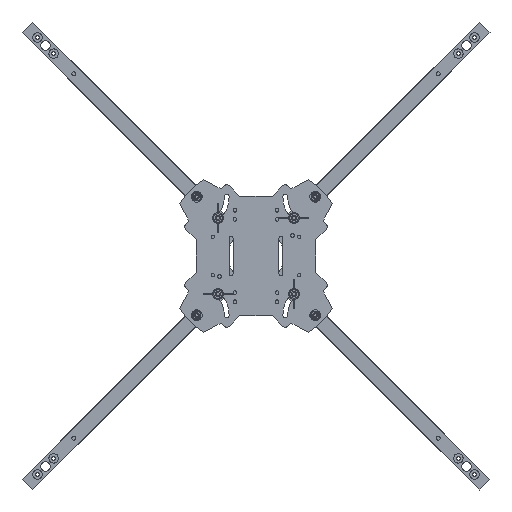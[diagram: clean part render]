
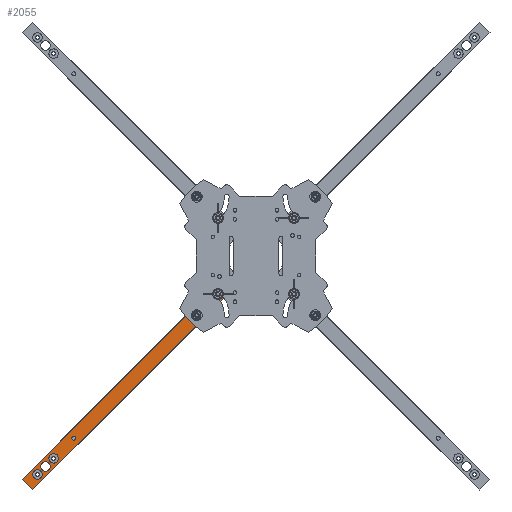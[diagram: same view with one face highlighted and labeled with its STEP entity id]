
A CAD part, front view. The second image highlights one B-rep face of the part: STEP entity #2055.
In plain terms, the highlighted planar face has unit normal (0, -1, 0).
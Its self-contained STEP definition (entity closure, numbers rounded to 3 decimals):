
#2055=ADVANCED_FACE('',(#3870,#3872,#3874,#3876,#3878,#3880,#3882),#3884,.T.);
#3870=FACE_BOUND('',#3871,.T.);
#3871=EDGE_LOOP('',(#5974,#5975));
#3872=FACE_BOUND('',#3873,.T.);
#3873=EDGE_LOOP('',(#5976,#5977));
#3874=FACE_BOUND('',#3875,.T.);
#3875=EDGE_LOOP('',(#5978,#5979));
#3876=FACE_BOUND('',#3877,.T.);
#3877=EDGE_LOOP('',(#5980,#5981));
#3878=FACE_BOUND('',#3879,.T.);
#3879=EDGE_LOOP('',(#5982,#5983));
#3880=FACE_BOUND('',#3881,.T.);
#3881=EDGE_LOOP('',(#5984,#5985));
#3882=FACE_OUTER_BOUND('',#3883,.T.);
#3883=EDGE_LOOP('',(#5986,#5987,#5988,#5989));
#3884=PLANE('',#3885);
#3885=AXIS2_PLACEMENT_3D('',#3886,#3887,#3888);
#3886=CARTESIAN_POINT('',(-6.,-6.,0.));
#3887=DIRECTION('',(0.,-1.,0.));
#3888=DIRECTION('',(1.,0.,0.));
#5974=ORIENTED_EDGE('',*,*,#7138,.T.);
#5975=ORIENTED_EDGE('',*,*,#7139,.T.);
#5976=ORIENTED_EDGE('',*,*,#7140,.T.);
#5977=ORIENTED_EDGE('',*,*,#7141,.T.);
#5978=ORIENTED_EDGE('',*,*,#7142,.T.);
#5979=ORIENTED_EDGE('',*,*,#7143,.T.);
#5980=ORIENTED_EDGE('',*,*,#7144,.T.);
#5981=ORIENTED_EDGE('',*,*,#7145,.T.);
#5982=ORIENTED_EDGE('',*,*,#7146,.T.);
#5983=ORIENTED_EDGE('',*,*,#7147,.T.);
#5984=ORIENTED_EDGE('',*,*,#7148,.T.);
#5985=ORIENTED_EDGE('',*,*,#7149,.T.);
#5986=ORIENTED_EDGE('',*,*,#7150,.T.);
#5987=ORIENTED_EDGE('',*,*,#7151,.T.);
#5988=ORIENTED_EDGE('',*,*,#7152,.F.);
#5989=ORIENTED_EDGE('',*,*,#7153,.F.);
#7138=EDGE_CURVE('',#8478,#8479,#8480,.F.);
#7139=EDGE_CURVE('',#8479,#8478,#8481,.F.);
#7140=EDGE_CURVE('',#8482,#8483,#8484,.T.);
#7141=EDGE_CURVE('',#8483,#8482,#8485,.T.);
#7142=EDGE_CURVE('',#8486,#8487,#8488,.T.);
#7143=EDGE_CURVE('',#8487,#8486,#8489,.T.);
#7144=EDGE_CURVE('',#8490,#8491,#8492,.T.);
#7145=EDGE_CURVE('',#8491,#8490,#8493,.T.);
#7146=EDGE_CURVE('',#8494,#8495,#8496,.F.);
#7147=EDGE_CURVE('',#8495,#8494,#8497,.F.);
#7148=EDGE_CURVE('',#8498,#8499,#8500,.F.);
#7149=EDGE_CURVE('',#8499,#8498,#8501,.F.);
#7150=EDGE_CURVE('',#8502,#8503,#8504,.T.);
#7151=EDGE_CURVE('',#8503,#8505,#8506,.T.);
#7152=EDGE_CURVE('',#8507,#8505,#8508,.T.);
#7153=EDGE_CURVE('',#8502,#8507,#8509,.T.);
#8478=VERTEX_POINT('',#11541);
#8479=VERTEX_POINT('',#11542);
#8480=CIRCLE('',#11543,1.6);
#8481=CIRCLE('',#11547,1.6);
#8482=VERTEX_POINT('',#11551);
#8483=VERTEX_POINT('',#11552);
#8484=CIRCLE('',#11553,2.);
#8485=CIRCLE('',#11557,2.);
#8486=VERTEX_POINT('',#11561);
#8487=VERTEX_POINT('',#11562);
#8488=CIRCLE('',#11563,2.);
#8489=CIRCLE('',#11567,2.);
#8490=VERTEX_POINT('',#11571);
#8491=VERTEX_POINT('',#11572);
#8492=CIRCLE('',#11573,4.);
#8493=CIRCLE('',#11577,4.);
#8494=VERTEX_POINT('',#11581);
#8495=VERTEX_POINT('',#11582);
#8496=CIRCLE('',#11583,4.);
#8497=CIRCLE('',#11587,4.);
#8498=VERTEX_POINT('',#11591);
#8499=VERTEX_POINT('',#11592);
#8500=CIRCLE('',#11593,4.);
#8501=CIRCLE('',#11597,4.);
#8502=VERTEX_POINT('',#11601);
#8503=VERTEX_POINT('',#11602);
#8504=LINE('',#11603,#11604);
#8505=VERTEX_POINT('',#11606);
#8506=LINE('',#11607,#11608);
#8507=VERTEX_POINT('',#11610);
#8508=LINE('',#11611,#11612);
#8509=LINE('',#11614,#11615);
#11541=CARTESIAN_POINT('',(0.,-6.,176.6));
#11542=CARTESIAN_POINT('',(0.,-6.,173.4));
#11543=AXIS2_PLACEMENT_3D('',#11544,#11545,#11546);
#11544=CARTESIAN_POINT('',(0.,-6.,175.));
#11545=DIRECTION('',(0.,-1.,0.));
#11546=DIRECTION('',(0.,0.,-1.));
#11547=AXIS2_PLACEMENT_3D('',#11548,#11549,#11550);
#11548=CARTESIAN_POINT('',(0.,-6.,175.));
#11549=DIRECTION('',(0.,-1.,0.));
#11550=DIRECTION('',(0.,0.,1.));
#11551=CARTESIAN_POINT('',(2.,-6.,30.));
#11552=CARTESIAN_POINT('',(-2.,-6.,30.));
#11553=AXIS2_PLACEMENT_3D('',#11554,#11555,#11556);
#11554=CARTESIAN_POINT('',(0.,-6.,30.));
#11555=DIRECTION('',(0.,1.,0.));
#11556=DIRECTION('',(1.,0.,0.));
#11557=AXIS2_PLACEMENT_3D('',#11558,#11559,#11560);
#11558=CARTESIAN_POINT('',(0.,-6.,30.));
#11559=DIRECTION('',(0.,1.,0.));
#11560=DIRECTION('',(-1.,0.,0.));
#11561=CARTESIAN_POINT('',(2.,-6.,5.));
#11562=CARTESIAN_POINT('',(-2.,-6.,5.));
#11563=AXIS2_PLACEMENT_3D('',#11564,#11565,#11566);
#11564=CARTESIAN_POINT('',(0.,-6.,5.));
#11565=DIRECTION('',(0.,1.,0.));
#11566=DIRECTION('',(1.,0.,0.));
#11567=AXIS2_PLACEMENT_3D('',#11568,#11569,#11570);
#11568=CARTESIAN_POINT('',(0.,-6.,5.));
#11569=DIRECTION('',(0.,1.,0.));
#11570=DIRECTION('',(-1.,0.,0.));
#11571=CARTESIAN_POINT('',(4.,-6.,208.2));
#11572=CARTESIAN_POINT('',(-4.,-6.,208.2));
#11573=AXIS2_PLACEMENT_3D('',#11574,#11575,#11576);
#11574=CARTESIAN_POINT('',(0.,-6.,208.2));
#11575=DIRECTION('',(0.,1.,0.));
#11576=DIRECTION('',(1.,0.,0.));
#11577=AXIS2_PLACEMENT_3D('',#11578,#11579,#11580);
#11578=CARTESIAN_POINT('',(0.,-6.,208.2));
#11579=DIRECTION('',(0.,1.,0.));
#11580=DIRECTION('',(-1.,0.,0.));
#11581=CARTESIAN_POINT('',(4.,-6.,217.7));
#11582=CARTESIAN_POINT('',(-4.,-6.,217.7));
#11583=AXIS2_PLACEMENT_3D('',#11584,#11585,#11586);
#11584=CARTESIAN_POINT('',(0.,-6.,217.7));
#11585=DIRECTION('',(0.,-1.,0.));
#11586=DIRECTION('',(-1.,0.,0.));
#11587=AXIS2_PLACEMENT_3D('',#11588,#11589,#11590);
#11588=CARTESIAN_POINT('',(0.,-6.,217.7));
#11589=DIRECTION('',(0.,-1.,0.));
#11590=DIRECTION('',(1.,0.,0.));
#11591=CARTESIAN_POINT('',(4.,-6.,198.7));
#11592=CARTESIAN_POINT('',(-4.,-6.,198.7));
#11593=AXIS2_PLACEMENT_3D('',#11594,#11595,#11596);
#11594=CARTESIAN_POINT('',(0.,-6.,198.7));
#11595=DIRECTION('',(0.,-1.,0.));
#11596=DIRECTION('',(-1.,0.,0.));
#11597=AXIS2_PLACEMENT_3D('',#11598,#11599,#11600);
#11598=CARTESIAN_POINT('',(0.,-6.,198.7));
#11599=DIRECTION('',(0.,-1.,0.));
#11600=DIRECTION('',(1.,0.,0.));
#11601=CARTESIAN_POINT('',(-6.,-6.,0.));
#11602=CARTESIAN_POINT('',(6.,-6.,0.));
#11603=CARTESIAN_POINT('',(-6.,-6.,0.));
#11604=VECTOR('',#11605,1.);
#11605=DIRECTION('',(1.,0.,0.));
#11606=CARTESIAN_POINT('',(6.,-6.,230.));
#11607=CARTESIAN_POINT('',(6.,-6.,0.));
#11608=VECTOR('',#11609,1.);
#11609=DIRECTION('',(0.,0.,1.));
#11610=CARTESIAN_POINT('',(-6.,-6.,230.));
#11611=CARTESIAN_POINT('',(-6.,-6.,230.));
#11612=VECTOR('',#11613,1.);
#11613=DIRECTION('',(1.,0.,0.));
#11614=CARTESIAN_POINT('',(-6.,-6.,0.));
#11615=VECTOR('',#11616,1.);
#11616=DIRECTION('',(0.,0.,1.));
